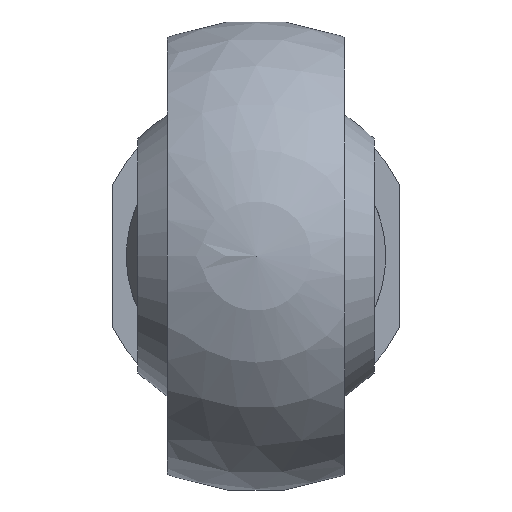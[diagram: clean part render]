
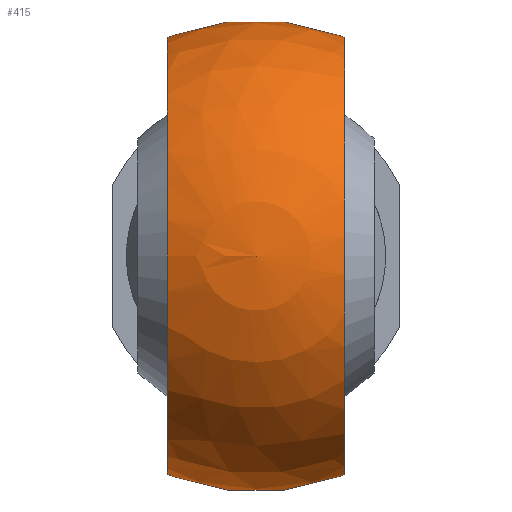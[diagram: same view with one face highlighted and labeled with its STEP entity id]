
A CAD part, left-side view. The second image highlights one B-rep face of the part: STEP entity #415.
In plain terms, the highlighted spherical face has radius 14 mm.
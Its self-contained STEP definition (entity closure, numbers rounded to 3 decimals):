
#23=SPHERICAL_SURFACE('',#454,14.);
#93=FACE_OUTER_BOUND('',#125,.T.);
#125=EDGE_LOOP('',(#297,#298,#299,#300));
#168=CIRCLE('',#446,12.978);
#170=CIRCLE('',#449,12.978);
#174=CIRCLE('',#455,12.037);
#175=CIRCLE('',#456,12.037);
#195=VERTEX_POINT('',#639);
#196=VERTEX_POINT('',#640);
#202=VERTEX_POINT('',#658);
#203=VERTEX_POINT('',#659);
#232=EDGE_CURVE('',#195,#196,#168,.F.);
#239=EDGE_CURVE('',#202,#203,#170,.F.);
#250=EDGE_CURVE('',#202,#196,#174,.T.);
#251=EDGE_CURVE('',#195,#203,#175,.T.);
#297=ORIENTED_EDGE('',*,*,#239,.F.);
#298=ORIENTED_EDGE('',*,*,#250,.T.);
#299=ORIENTED_EDGE('',*,*,#232,.F.);
#300=ORIENTED_EDGE('',*,*,#251,.T.);
#415=ADVANCED_FACE('',(#93),#23,.T.);
#446=AXIS2_PLACEMENT_3D('',#641,#510,#511);
#449=AXIS2_PLACEMENT_3D('',#660,#519,#520);
#454=AXIS2_PLACEMENT_3D('',#685,#534,#535);
#455=AXIS2_PLACEMENT_3D('',#686,#536,#537);
#456=AXIS2_PLACEMENT_3D('',#687,#538,#539);
#510=DIRECTION('center_axis',(0.,-1.,0.));
#511=DIRECTION('ref_axis',(0.,0.,-1.));
#519=DIRECTION('center_axis',(0.,1.,0.));
#520=DIRECTION('ref_axis',(0.,0.,1.));
#534=DIRECTION('center_axis',(-1.,0.,0.));
#535=DIRECTION('ref_axis',(0.,1.,0.));
#536=DIRECTION('center_axis',(-1.,0.,0.));
#537=DIRECTION('ref_axis',(0.,0.,1.));
#538=DIRECTION('center_axis',(-1.,0.,0.));
#539=DIRECTION('ref_axis',(0.,0.,1.));
#639=CARTESIAN_POINT('',(7.15,5.25,-10.831));
#640=CARTESIAN_POINT('',(7.15,5.25,10.831));
#641=CARTESIAN_POINT('Origin',(0.,5.25,0.));
#658=CARTESIAN_POINT('',(7.15,-5.25,10.831));
#659=CARTESIAN_POINT('',(7.15,-5.25,-10.831));
#660=CARTESIAN_POINT('Origin',(0.,-5.25,0.));
#685=CARTESIAN_POINT('Origin',(0.,0.,
0.));
#686=CARTESIAN_POINT('Origin',(7.15,0.,0.));
#687=CARTESIAN_POINT('Origin',(7.15,0.,0.));
